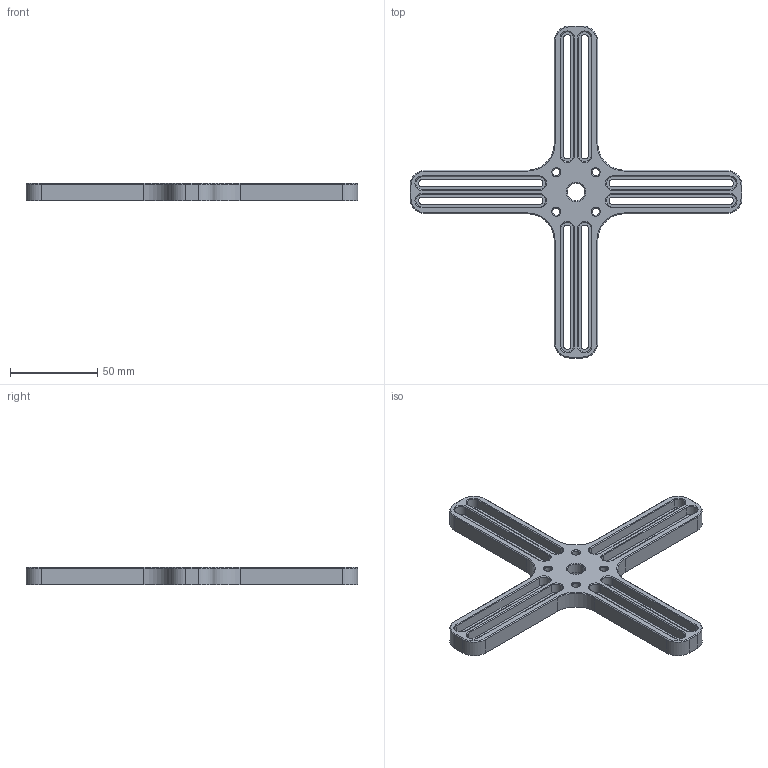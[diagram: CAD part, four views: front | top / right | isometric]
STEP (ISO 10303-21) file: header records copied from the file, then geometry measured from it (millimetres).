
FILE_DESCRIPTION (( 'STEP AP214' ), '1' );
FILE_NAME ('GSMP-06.STEP', '2019-12-04T09:04:28', ( '微软用户' ), ( '微软中国' ), 'SwSTEP 2.0', 'SolidWorks 2016', '' );
FILE_SCHEMA (( 'AUTOMOTIVE_DESIGN' ));
Length unit declared in the file: millimetre
Products named in the file (1): GSMP-06
Bounding box: 190 x 190 x 10 mm (x, y, z)
Volume: 52174.5 mm3; surface area: 32472.1 mm2
Topology: 1 solids, 1 shells, 177 faces, 432 edges, 266 vertices
Faces by surface type: plane 83, cylinder 56, cone 38
Entity records: 7181 total; most frequent: DIRECTION 938, CARTESIAN_POINT 876, ORIENTED_EDGE 864, EDGE_CURVE 432, AXIS2_PLACEMENT_3D 328, LINE 282, VECTOR 282, VERTEX_POINT 266
